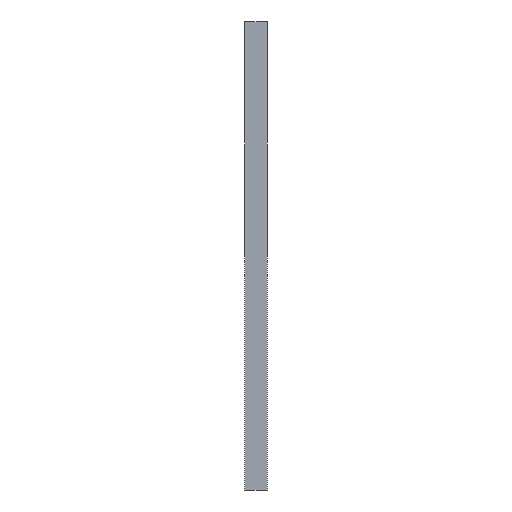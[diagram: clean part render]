
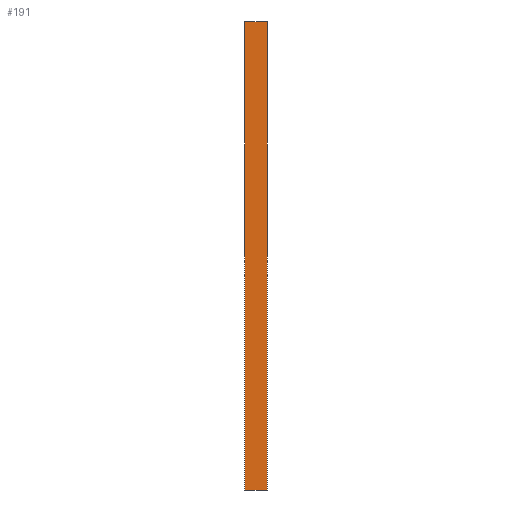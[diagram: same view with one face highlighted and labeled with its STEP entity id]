
A CAD part, front view. The second image highlights one B-rep face of the part: STEP entity #191.
In plain terms, the highlighted planar face has unit normal (0, -1, 0).
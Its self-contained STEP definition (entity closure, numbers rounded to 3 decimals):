
#19=FACE_OUTER_BOUND('',#31,.T.);
#31=EDGE_LOOP('',(#137,#138,#139,#140));
#44=LINE('',#287,#68);
#46=LINE('',#293,#70);
#49=LINE('',#298,#73);
#50=LINE('',#299,#74);
#68=VECTOR('',#235,10.);
#70=VECTOR('',#239,10.);
#73=VECTOR('',#244,10.);
#74=VECTOR('',#245,10.);
#89=VERTEX_POINT('',#280);
#92=VERTEX_POINT('',#285);
#94=VERTEX_POINT('',#290);
#95=VERTEX_POINT('',#292);
#108=EDGE_CURVE('',#92,#89,#44,.T.);
#110=EDGE_CURVE('',#94,#95,#46,.T.);
#113=EDGE_CURVE('',#92,#95,#49,.T.);
#114=EDGE_CURVE('',#89,#94,#50,.T.);
#137=ORIENTED_EDGE('',*,*,#113,.T.);
#138=ORIENTED_EDGE('',*,*,#110,.F.);
#139=ORIENTED_EDGE('',*,*,#114,.F.);
#140=ORIENTED_EDGE('',*,*,#108,.F.);
#179=PLANE('',#218);
#191=ADVANCED_FACE('',(#19),#179,.F.);
#218=AXIS2_PLACEMENT_3D('',#297,#242,#243);
#235=DIRECTION('',(1.,0.,0.));
#239=DIRECTION('',(-1.,0.,0.));
#242=DIRECTION('center_axis',(0.,1.,0.));
#243=DIRECTION('ref_axis',(0.,0.,1.));
#244=DIRECTION('',(0.,0.,-1.));
#245=DIRECTION('',(0.,0.,-1.));
#280=CARTESIAN_POINT('',(-34.2,-8.8,-7.3));
#285=CARTESIAN_POINT('',(-34.3,-8.8,-7.3));
#287=CARTESIAN_POINT('',(-34.25,-8.8,-7.3));
#290=CARTESIAN_POINT('',(-34.2,-8.8,-9.4));
#292=CARTESIAN_POINT('',(-34.3,-8.8,-9.4));
#293=CARTESIAN_POINT('',(-34.25,-8.8,-9.4));
#297=CARTESIAN_POINT('Origin',(-34.25,-8.8,-8.35));
#298=CARTESIAN_POINT('',(-34.3,-8.8,-8.35));
#299=CARTESIAN_POINT('',(-34.2,-8.8,-8.35));
